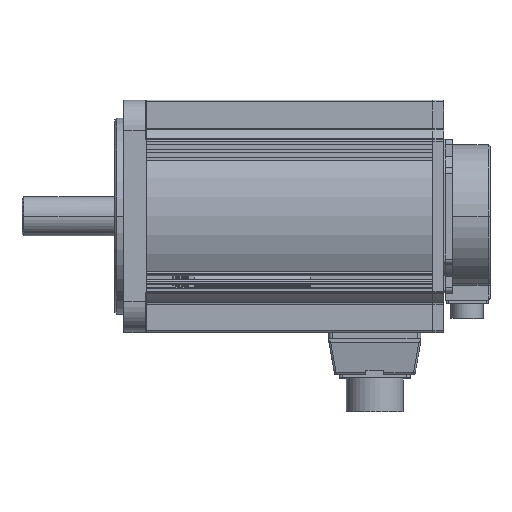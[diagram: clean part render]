
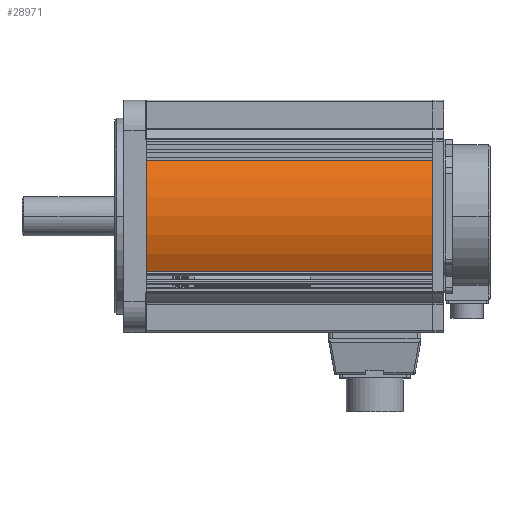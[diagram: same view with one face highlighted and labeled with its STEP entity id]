
A CAD part, top view. The second image highlights one B-rep face of the part: STEP entity #28971.
In plain terms, the highlighted cylindrical face has radius 65 mm (diameter 130 mm), a partial arc.
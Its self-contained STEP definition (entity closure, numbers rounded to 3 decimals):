
#28945 = VERTEX_POINT('',#28946);
#28946 = CARTESIAN_POINT('',(69.5,-31.,57.131));
#28954 = VERTEX_POINT('',#28955);
#28955 = CARTESIAN_POINT('',(230.,-31.,57.131));
#28961 = EDGE_CURVE('',#28954,#28945,#28962,.T.);
#28962 = LINE('',#28963,#28964);
#28963 = CARTESIAN_POINT('',(230.,-31.,57.131));
#28964 = VECTOR('',#28965,1.);
#28965 = DIRECTION('',(-1.,0.,0.));
#28971 = ADVANCED_FACE('',(#28972),#28999,.T.);
#28972 = FACE_BOUND('',#28973,.T.);
#28973 = EDGE_LOOP('',(#28974,#28983,#28984,#28993));
#28974 = ORIENTED_EDGE('',*,*,#28975,.T.);
#28975 = EDGE_CURVE('',#28976,#28945,#28978,.T.);
#28976 = VERTEX_POINT('',#28977);
#28977 = CARTESIAN_POINT('',(69.5,31.,57.131));
#28978 = CIRCLE('',#28979,65.);
#28979 = AXIS2_PLACEMENT_3D('',#28980,#28981,#28982);
#28980 = CARTESIAN_POINT('',(69.5,0.,0.)
  );
#28981 = DIRECTION('',(1.,0.,0.));
#28982 = DIRECTION('',(0.,1.,0.));
#28983 = ORIENTED_EDGE('',*,*,#28961,.F.);
#28984 = ORIENTED_EDGE('',*,*,#28985,.F.);
#28985 = EDGE_CURVE('',#28986,#28954,#28988,.T.);
#28986 = VERTEX_POINT('',#28987);
#28987 = CARTESIAN_POINT('',(230.,31.,57.131));
#28988 = CIRCLE('',#28989,65.);
#28989 = AXIS2_PLACEMENT_3D('',#28990,#28991,#28992);
#28990 = CARTESIAN_POINT('',(230.,0.,
    0.));
#28991 = DIRECTION('',(1.,0.,0.));
#28992 = DIRECTION('',(0.,1.,0.));
#28993 = ORIENTED_EDGE('',*,*,#28994,.T.);
#28994 = EDGE_CURVE('',#28986,#28976,#28995,.T.);
#28995 = LINE('',#28996,#28997);
#28996 = CARTESIAN_POINT('',(230.,31.,57.131));
#28997 = VECTOR('',#28998,1.);
#28998 = DIRECTION('',(-1.,0.,0.));
#28999 = CYLINDRICAL_SURFACE('',#29000,65.);
#29000 = AXIS2_PLACEMENT_3D('',#29001,#29002,#29003);
#29001 = CARTESIAN_POINT('',(230.,0.,
    0.));
#29002 = DIRECTION('',(-1.,0.,0.));
#29003 = DIRECTION('',(0.,-1.,0.));
